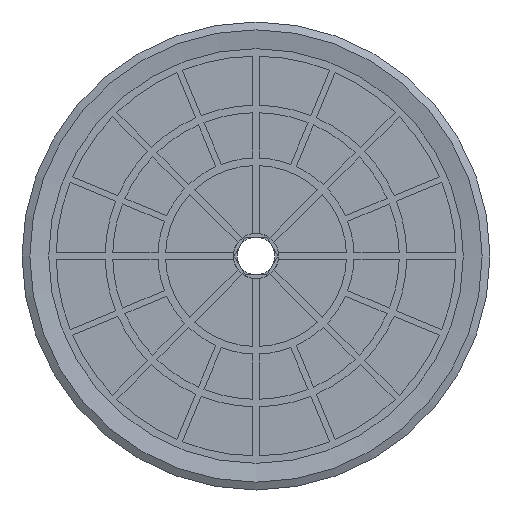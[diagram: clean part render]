
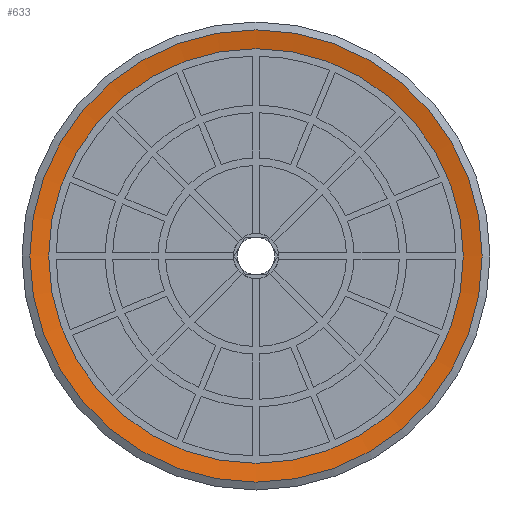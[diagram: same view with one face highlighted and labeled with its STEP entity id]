
A CAD part, front view. The second image highlights one B-rep face of the part: STEP entity #633.
In plain terms, the highlighted conical face has half-angle 80 degrees and reference radius 15 mm.
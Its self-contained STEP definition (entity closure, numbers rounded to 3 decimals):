
#633=ADVANCED_FACE('',(#1214,#1215),#1216,.F.);
#1214=FACE_BOUND('',#1970,.T.);
#1215=FACE_OUTER_BOUND('',#1971,.T.);
#1216=CONICAL_SURFACE('',#1972,15.0,1.396);
#1970=EDGE_LOOP('',(#3704));
#1971=EDGE_LOOP('',(#3705));
#1972=AXIS2_PLACEMENT_3D('',#3706,#3707,#3708);
#3704=ORIENTED_EDGE('',*,*,#5218,.T.);
#3705=ORIENTED_EDGE('',*,*,#5368,.F.);
#3706=CARTESIAN_POINT('',(0.0,0.,0.));
#3707=DIRECTION('',(0.0,0.,-1.0));
#3708=DIRECTION('',(0.0,1.0,0.));
#5218=EDGE_CURVE('',#6284,#6284,#6285,.T.);
#5368=EDGE_CURVE('',#6534,#6534,#6535,.T.);
#6284=VERTEX_POINT('',#8100);
#6285=CIRCLE('',#8101,13.75);
#6534=VERTEX_POINT('',#8438);
#6535=CIRCLE('',#8439,15.0);
#8100=CARTESIAN_POINT('',(0.0,-13.75,0.22));
#8101=AXIS2_PLACEMENT_3D('',#9511,#9512,#9513);
#8438=CARTESIAN_POINT('',(0.0,-15.0,0.));
#8439=AXIS2_PLACEMENT_3D('',#9785,#9786,#9787);
#9511=CARTESIAN_POINT('',(0.0,0.,0.22));
#9512=DIRECTION('',(0.0,0.,1.0));
#9513=DIRECTION('',(0.0,-1.0,0.));
#9785=CARTESIAN_POINT('',(0.0,0.,0.));
#9786=DIRECTION('',(0.0,0.,1.0));
#9787=DIRECTION('',(0.0,-1.0,0.));
